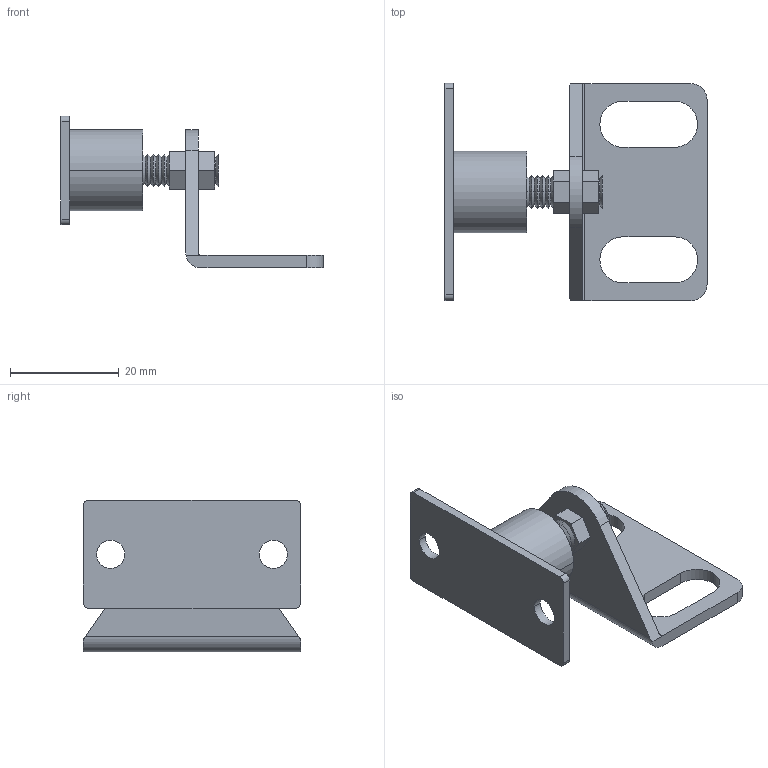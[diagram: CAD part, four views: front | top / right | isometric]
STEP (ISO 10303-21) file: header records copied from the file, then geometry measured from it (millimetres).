
FILE_DESCRIPTION (( 'STEP AP203' ), '1' );
FILE_NAME ('MS0640L-8.STEP', '2024-02-19T13:10:02', ( '' ), ( '' ), 'SwSTEP 2.0', 'SolidWorks 2022', '' );
FILE_SCHEMA (( 'CONFIG_CONTROL_DESIGN' ));
Length unit declared in the file: millimetre
Products named in the file (1): MS0640L-8
Bounding box: 48.3 x 40 x 28 mm (x, y, z)
Volume: 6868.2 mm3; surface area: 6490.7 mm2
Topology: 5 solids, 5 shells, 123 faces, 278 edges, 166 vertices
Faces by surface type: cone 58, plane 38, cylinder 27
Entity records: 3497 total; most frequent: DIRECTION 634, CARTESIAN_POINT 580, ORIENTED_EDGE 556, EDGE_CURVE 278, AXIS2_PLACEMENT_3D 236, VERTEX_POINT 166, LINE 162, VECTOR 162
